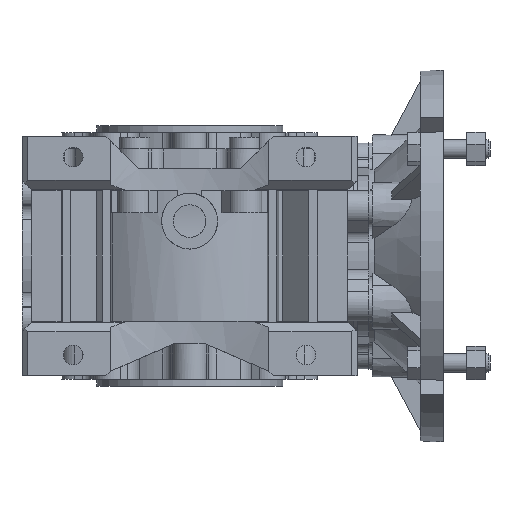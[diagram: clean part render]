
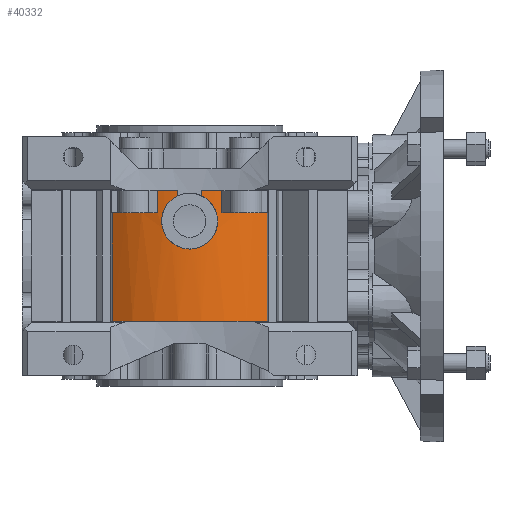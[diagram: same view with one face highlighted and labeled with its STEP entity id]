
A CAD part, front view. The second image highlights one B-rep face of the part: STEP entity #40332.
In plain terms, the highlighted cylindrical face has radius 58.25 mm (diameter 116.5 mm), a partial arc.
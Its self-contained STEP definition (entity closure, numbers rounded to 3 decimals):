
#1284=CIRCLE('',#42026,58.25);
#1285=CIRCLE('',#42027,58.25);
#1286=CIRCLE('',#42028,58.25);
#1287=CIRCLE('',#42029,58.25);
#1288=CIRCLE('',#42030,58.25);
#2588=B_SPLINE_CURVE_WITH_KNOTS('',3,(#54000,#54001,#54002,#54003,#54004,
#54005,#54006,#54007,#54008,#54009,#54010,#54011,#54012,#54013,#54014,#54015,
#54016,#54017),.UNSPECIFIED.,.F.,.F.,(4,1,1,1,1,1,1,1,1,1,1,1,1,1,1,4),
(0.062,0.066,0.07,0.074,
0.078,0.082,0.086,0.09,
0.094,0.098,0.102,0.106,
0.11,0.114,0.118,0.126),
 .UNSPECIFIED.);
#2901=ORIENTED_EDGE('',*,*,#11689,.F.);
#2902=ORIENTED_EDGE('',*,*,#11690,.F.);
#2903=ORIENTED_EDGE('',*,*,#11691,.F.);
#2904=ORIENTED_EDGE('',*,*,#11692,.T.);
#2905=ORIENTED_EDGE('',*,*,#11693,.T.);
#2906=ORIENTED_EDGE('',*,*,#11694,.T.);
#2907=ORIENTED_EDGE('',*,*,#11695,.F.);
#2908=ORIENTED_EDGE('',*,*,#11696,.F.);
#2909=ORIENTED_EDGE('',*,*,#11697,.F.);
#2910=ORIENTED_EDGE('',*,*,#11698,.T.);
#2911=ORIENTED_EDGE('',*,*,#11699,.T.);
#2912=ORIENTED_EDGE('',*,*,#11700,.T.);
#11689=EDGE_CURVE('',#16083,#16084,#19053,.F.);
#11690=EDGE_CURVE('',#16085,#16083,#2588,.T.);
#11691=EDGE_CURVE('',#16086,#16085,#19054,.T.);
#11692=EDGE_CURVE('',#16086,#16087,#1284,.T.);
#11693=EDGE_CURVE('',#16087,#16088,#19055,.T.);
#11694=EDGE_CURVE('',#16088,#16089,#1285,.T.);
#11695=EDGE_CURVE('',#16090,#16089,#19056,.F.);
#11696=EDGE_CURVE('',#16091,#16090,#1286,.T.);
#11697=EDGE_CURVE('',#16092,#16091,#19057,.T.);
#11698=EDGE_CURVE('',#16092,#16093,#1287,.T.);
#11699=EDGE_CURVE('',#16093,#16094,#19058,.F.);
#11700=EDGE_CURVE('',#16094,#16084,#1288,.T.);
#16083=VERTEX_POINT('',#53998);
#16084=VERTEX_POINT('',#53999);
#16085=VERTEX_POINT('',#54018);
#16086=VERTEX_POINT('',#54020);
#16087=VERTEX_POINT('',#54022);
#16088=VERTEX_POINT('',#54024);
#16089=VERTEX_POINT('',#54026);
#16090=VERTEX_POINT('',#54028);
#16091=VERTEX_POINT('',#54030);
#16092=VERTEX_POINT('',#54032);
#16093=VERTEX_POINT('',#54034);
#16094=VERTEX_POINT('',#54036);
#19053=LINE('',#53997,#21703);
#19054=LINE('',#54019,#21704);
#19055=LINE('',#54023,#21705);
#19056=LINE('',#54027,#21706);
#19057=LINE('',#54031,#21707);
#19058=LINE('',#54035,#21708);
#21703=VECTOR('',#45135,1000.);
#21704=VECTOR('',#45136,1000.);
#21705=VECTOR('',#45139,1000.);
#21706=VECTOR('',#45142,1000.);
#21707=VECTOR('',#45145,1000.);
#21708=VECTOR('',#45148,1000.);
#24353=EDGE_LOOP('',(#2901,#2902,#2903,#2904,#2905,#2906,#2907,#2908,#2909,
#2910,#2911,#2912));
#26323=FACE_BOUND('',#24353,.T.);
#28293=CYLINDRICAL_SURFACE('',#42025,58.25);
#40332=ADVANCED_FACE('',(#26323),#28293,.T.);
#42025=AXIS2_PLACEMENT_3D('',#53996,#45133,#45134);
#42026=AXIS2_PLACEMENT_3D('',#54021,#45137,#45138);
#42027=AXIS2_PLACEMENT_3D('',#54025,#45140,#45141);
#42028=AXIS2_PLACEMENT_3D('',#54029,#45143,#45144);
#42029=AXIS2_PLACEMENT_3D('',#54033,#45146,#45147);
#42030=AXIS2_PLACEMENT_3D('',#54037,#45149,#45150);
#45133=DIRECTION('',(1.,0.,0.));
#45134=DIRECTION('',(0.,0.,-1.));
#45135=DIRECTION('',(1.,0.,0.));
#45136=DIRECTION('',(1.,0.,0.));
#45137=DIRECTION('',(1.,0.,0.));
#45138=DIRECTION('',(0.,0.,-1.));
#45139=DIRECTION('',(1.,0.,0.));
#45140=DIRECTION('',(1.,0.,0.));
#45141=DIRECTION('',(0.,0.,-1.));
#45142=DIRECTION('',(1.,0.,0.));
#45143=DIRECTION('',(1.,0.,0.));
#45144=DIRECTION('',(0.,0.,-1.));
#45145=DIRECTION('',(1.,0.,0.));
#45146=DIRECTION('',(1.,0.,0.));
#45147=DIRECTION('',(0.,0.,-1.));
#45148=DIRECTION('',(1.,0.,0.));
#45149=DIRECTION('',(1.,0.,0.));
#45150=DIRECTION('',(0.,0.,-1.));
#53996=CARTESIAN_POINT('',(32.5,0.,0.));
#53997=CARTESIAN_POINT('',(32.5,-58.022,5.15));
#53998=CARTESIAN_POINT('',(-25.839,-58.022,5.15));
#53999=CARTESIAN_POINT('',(-28.,-58.022,5.15));
#54000=CARTESIAN_POINT('',(-25.839,-58.022,-5.15));
#54001=CARTESIAN_POINT('',(-25.262,-57.914,-6.363));
#54002=CARTESIAN_POINT('',(-23.689,-57.636,-8.605));
#54003=CARTESIAN_POINT('',(-20.366,-57.213,-10.989));
#54004=CARTESIAN_POINT('',(-16.415,-56.969,-12.15));
#54005=CARTESIAN_POINT('',(-12.298,-57.017,-11.929));
#54006=CARTESIAN_POINT('',(-8.504,-57.335,-10.361));
#54007=CARTESIAN_POINT('',(-5.45,-57.777,-7.637));
#54008=CARTESIAN_POINT('',(-3.462,-58.152,-4.054));
#54009=CARTESIAN_POINT('',(-2.769,-58.299,0.003));
#54010=CARTESIAN_POINT('',(-3.464,-58.152,4.061));
#54011=CARTESIAN_POINT('',(-5.456,-57.776,7.645));
#54012=CARTESIAN_POINT('',(-8.512,-57.334,10.366));
#54013=CARTESIAN_POINT('',(-12.306,-57.017,11.93));
#54014=CARTESIAN_POINT('',(-16.419,-56.969,12.148));
#54015=CARTESIAN_POINT('',(-21.684,-57.295,10.607));
#54016=CARTESIAN_POINT('',(-24.683,-57.806,7.583));
#54017=CARTESIAN_POINT('',(-25.839,-58.022,5.15));
#54018=CARTESIAN_POINT('',(-25.839,-58.022,-5.15));
#54019=CARTESIAN_POINT('',(32.5,-58.022,-5.15));
#54020=CARTESIAN_POINT('',(-28.,-58.022,-5.15));
#54021=CARTESIAN_POINT('',(-28.,0.,0.));
#54022=CARTESIAN_POINT('',(-28.,-56.57,-13.89));
#54023=CARTESIAN_POINT('',(32.5,-56.57,-13.89));
#54024=CARTESIAN_POINT('',(-18.5,-56.57,-13.89));
#54025=CARTESIAN_POINT('',(-18.5,0.,0.));
#54026=CARTESIAN_POINT('',(-18.5,-47.797,-33.294));
#54027=CARTESIAN_POINT('',(32.5,-47.797,-33.294));
#54028=CARTESIAN_POINT('',(28.,-47.797,-33.294));
#54029=CARTESIAN_POINT('',(28.,0.,0.));
#54030=CARTESIAN_POINT('',(28.,-47.797,33.294));
#54031=CARTESIAN_POINT('',(32.5,-47.797,33.294));
#54032=CARTESIAN_POINT('',(-18.5,-47.797,33.294));
#54033=CARTESIAN_POINT('',(-18.5,0.,0.));
#54034=CARTESIAN_POINT('',(-18.5,-56.57,13.89));
#54035=CARTESIAN_POINT('',(32.5,-56.57,13.89));
#54036=CARTESIAN_POINT('',(-28.,-56.57,13.89));
#54037=CARTESIAN_POINT('',(-28.,0.,0.));
